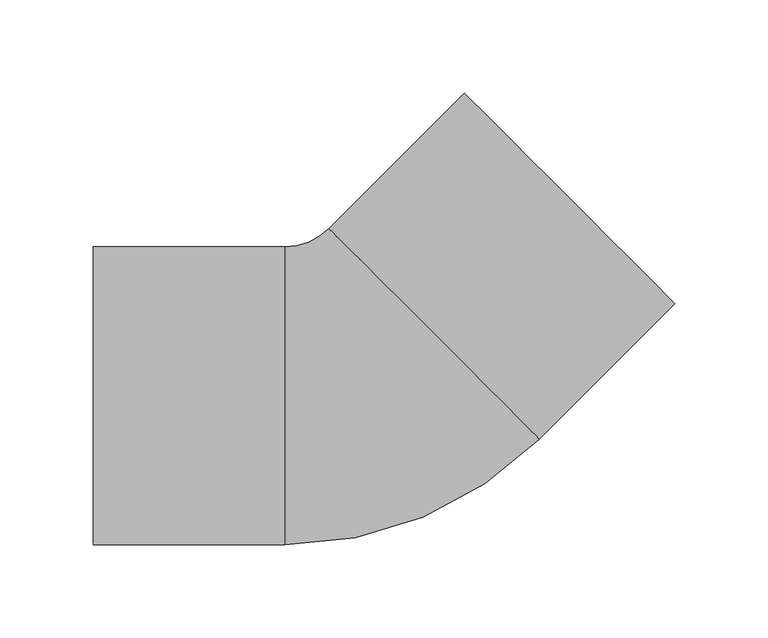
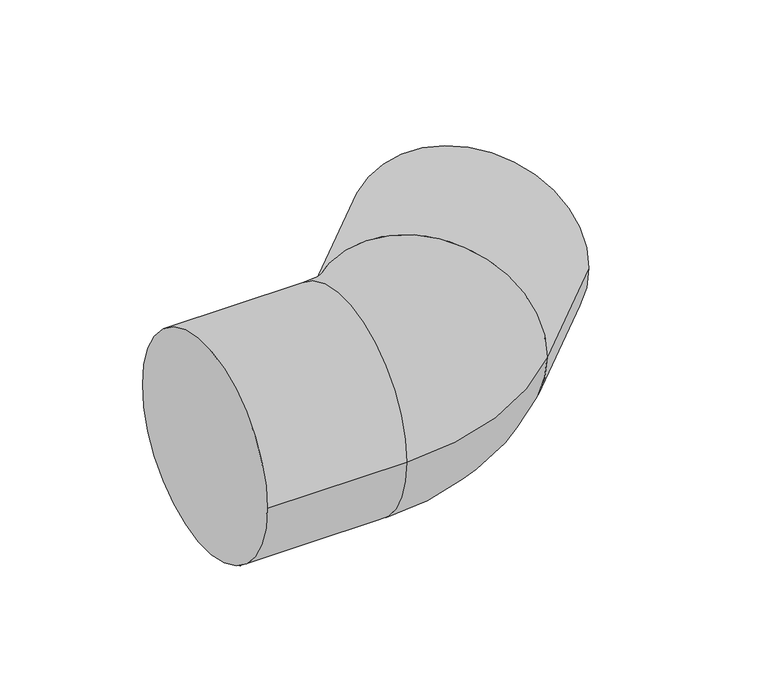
"""IFC4 building model written with IfcOpenShell, lengths in millimetres: pipe fitting geometry, NIRON RED termofusion codo SDR 11 : Estándar."""

from ifc_helpers import new_model, si_unit, point, frame, origin, place, context, project, spatial, circle_curve, ellipse_curve, trimmed, source, transform, mapped, element, save
from ifc_brep_helpers import plane_surface, cylinder_surface, revolved_surface, advanced_brep


def pipe_fitting_d896f49f(model_context):
    return source(origin(), model_context, "Body", "AdvancedBrep", [
        advanced_brep(
        [(-150.0, -80.0, 0.0), (-150.0, 80.0, 0.0), (-47.0, -80.0, 0.0), (-47.0, 80.0, 0.0), (-23.3345238, 89.8025612, 0.0), (89.8025612, -23.3345238, 0.0), (33.2340187, 33.2340187, 80.0), (33.2340187, 33.2340187, -80.0), (162.6345597, 49.4974747, 0.0), (49.4974747, 162.6345597, 0.0)],
        [
            (0, 1, circle_curve(frame((-150.0, 0.0, 0.0), z_axis=(-1.0, 0.0, 0.0), x_axis=(0.0, 1.0, 0.0)), 80.0)),
            (1, 0, circle_curve(frame((-150.0, 0.0, 0.0), z_axis=(-1.0, 0.0, 0.0), x_axis=(0.0, 1.0, 0.0)), 80.0)),
            (0, 2),
            (2, 3, circle_curve(frame((-47.0, 0.0, 0.0), z_axis=(-1.0, 0.0, 0.0), x_axis=(0.0, 1.0, 0.0)), 80.0)),
            (3, 1),
            (3, 2, circle_curve(frame((-47.0, 0.0, 0.0), z_axis=(-1.0, 0.0, 0.0), x_axis=(0.0, 1.0, 0.0)), 80.0)),
            (4, 3, circle_curve(frame((-47.0, 113.4680374, 0.0), z_axis=(0.0, 0.0, -1.0), x_axis=(0.0, -1.0, 0.0)), 33.4680374)),
            (2, 5, circle_curve(frame((-47.0, 113.4680374, 0.0), z_axis=(0.0, 0.0, 1.0), x_axis=(0.0, -1.0, 0.0)), 193.4680374)),
            (5, 6, circle_curve(frame((33.2340187, 33.2340187, 0.0), z_axis=(-0.7071067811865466, -0.7071067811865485, 0.0), x_axis=(-0.7071067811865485, 0.7071067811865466, 0.0)), 80.0)),
            (6, 4, circle_curve(frame((33.2340187, 33.2340187, 0.0), z_axis=(-0.7071067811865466, -0.7071067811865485, 0.0), x_axis=(-0.7071067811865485, 0.7071067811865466, 0.0)), 80.0)),
            (4, 7, circle_curve(frame((33.2340187, 33.2340187, 0.0), z_axis=(-0.7071067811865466, -0.7071067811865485, 0.0), x_axis=(-0.7071067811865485, 0.7071067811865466, 0.0)), 80.0)),
            (7, 5, circle_curve(frame((33.2340187, 33.2340187, 0.0), z_axis=(-0.7071067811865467, -0.7071067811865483, 0.0), x_axis=(-0.7071067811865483, 0.7071067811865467, 0.0)), 80.0)),
            (8, 9, circle_curve(frame((106.0660172, 106.0660172, 0.0), z_axis=(0.7071067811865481, 0.7071067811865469, 0.0), x_axis=(-0.7071067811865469, 0.7071067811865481, 0.0)), 80.0)),
            (9, 8, circle_curve(frame((106.0660172, 106.0660172, 0.0), z_axis=(0.7071067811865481, 0.7071067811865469, 0.0), x_axis=(-0.7071067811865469, 0.7071067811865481, 0.0)), 80.0)),
            (9, 4),
            (5, 8),
        ],
        [
            plane_surface(frame((-150.0, 0.0, 0.0), z_axis=(-1.0, 0.0, 0.0), x_axis=(0.0, 0.0, 1.0))),
            cylinder_surface(frame((-150.0, 0.0, 0.0), z_axis=(-1.0, 0.0, 0.0), x_axis=(0.0, 1.0, 0.0)), 80.0),
            revolved_surface(trimmed(ellipse_curve(frame((-47.0, 0.0, 0.0), z_axis=(-1.0, 0.0, 0.0), x_axis=(0.0, 1.0, 0.0)), 80.0, 80.0), [point((-47.0, -80.0, 0.0))], [point((-47.0, 80.0, 0.0))], True, "CARTESIAN"), (-47.0, 113.4680374, 0.0), (0.0, 0.0, 1.0)),
            revolved_surface(trimmed(ellipse_curve(frame((-47.0, 0.0, 0.0), z_axis=(-1.0, 0.0, 0.0), x_axis=(0.0, 1.0, 0.0)), 80.0, 80.0), [point((-47.0, 80.0, 0.0))], [point((-47.0, -80.0, 0.0))], True, "CARTESIAN"), (-47.0, 113.4680374, 0.0), (0.0, 0.0, 1.0)),
            plane_surface(frame((106.0660172, 106.0660172, 0.0), z_axis=(0.7071067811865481, 0.7071067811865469, 0.0), x_axis=(0.0, 0.0, 1.0))),
            cylinder_surface(frame((33.2340187, 33.2340187, 0.0), z_axis=(-0.7071067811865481, -0.7071067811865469, 0.0), x_axis=(-0.7071067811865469, 0.7071067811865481, 0.0)), 80.0),
        ],
        [
            (0, [[1, 2]]),
            (1, [[-1, 3, 4, 5]]),
            (1, [[-2, -5, 6, -3]]),
            (2, [[7, -4, 8, 9, 10]]),
            (3, [[-7, 11, 12, -8, -6]]),
            (4, [[13, 14]]),
            (5, [[-14, 15, -10, -9, 16]]),
            (5, [[-13, -16, -12, -11, -15]]),
        ],
    ),
    ])


if __name__ == "__main__":
    model = new_model("IFC4")
    model_context = context("Model", 3, world=origin())
    ifc_project = project(units=[si_unit("LENGTHUNIT", "METRE", prefix="MILLI")], contexts=[model_context])
    site = spatial("IfcSite", under=ifc_project)
    building = spatial("IfcBuilding", under=site)
    placement = place(None, origin())
    pipe_fitting_shape = pipe_fitting_d896f49f(model_context)
    element("IfcPipeFitting", 1, ObjectType="NIRON RED termofusion codo SDR 11 : Estándar", at=placement, inside=building, context=model_context, shape_type="MappedRepresentation", body=[
        mapped(pipe_fitting_shape, transform((0.0, 0.0, 0.0), x_axis=(1.0, 0.0, 0.0), y_axis=(0.0, 1.0, 0.0), z_axis=(0.0, 0.0, 1.0))),
    ])
    save(model, "model.ifc")
